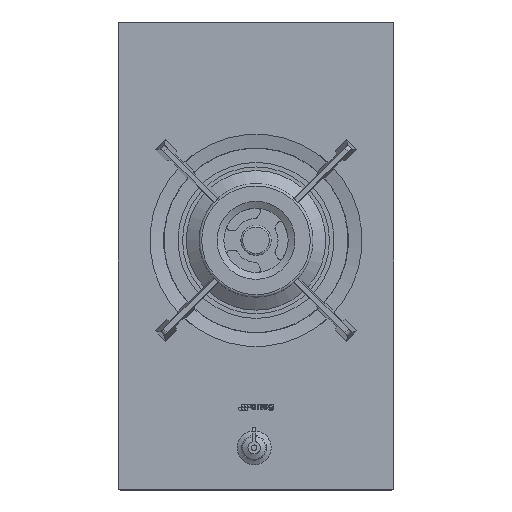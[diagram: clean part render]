
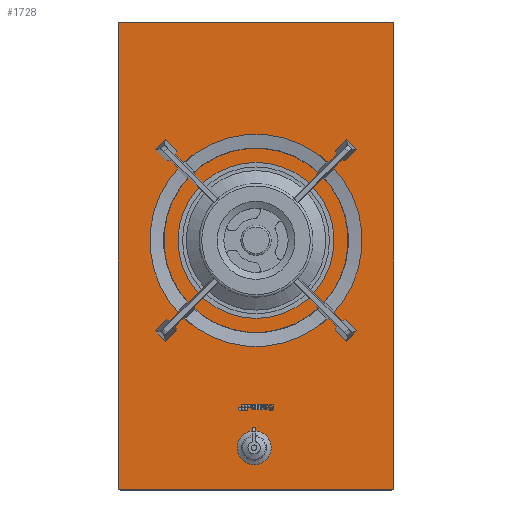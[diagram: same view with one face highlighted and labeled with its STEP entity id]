
A CAD part, top view. The second image highlights one B-rep face of the part: STEP entity #1728.
In plain terms, the highlighted planar face has unit normal (0, 0, 1).
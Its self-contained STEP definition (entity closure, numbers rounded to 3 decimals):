
#508=LINE('',#8120,#893);
#513=LINE('',#8134,#898);
#517=LINE('',#8146,#902);
#521=LINE('',#8158,#906);
#893=VECTOR('',#6407,1.);
#898=VECTOR('',#6420,1.);
#902=VECTOR('',#6432,1.);
#906=VECTOR('',#6444,1.);
#1243=PLANE('',#5173);
#1728=ADVANCED_FACE('',(#1962,#1963,#1964),#1243,.T.);
#1962=FACE_BOUND('',#2324,.T.);
#1963=FACE_BOUND('',#2325,.T.);
#1964=FACE_BOUND('',#2326,.T.);
#2324=EDGE_LOOP('',(#3512));
#2325=EDGE_LOOP('',(#3513));
#2326=EDGE_LOOP('',(#3514,#3515,#3516,#3517,#3518,#3519,#3520,#3521));
#3512=ORIENTED_EDGE('',*,*,#4566,.F.);
#3513=ORIENTED_EDGE('',*,*,#4567,.F.);
#3514=ORIENTED_EDGE('',*,*,#4544,.T.);
#3515=ORIENTED_EDGE('',*,*,#4548,.T.);
#3516=ORIENTED_EDGE('',*,*,#4551,.T.);
#3517=ORIENTED_EDGE('',*,*,#4554,.T.);
#3518=ORIENTED_EDGE('',*,*,#4557,.T.);
#3519=ORIENTED_EDGE('',*,*,#4560,.T.);
#3520=ORIENTED_EDGE('',*,*,#4563,.T.);
#3521=ORIENTED_EDGE('',*,*,#4565,.T.);
#3951=VERTEX_POINT('',#8119);
#3952=VERTEX_POINT('',#8121);
#3954=VERTEX_POINT('',#8127);
#3956=VERTEX_POINT('',#8133);
#3958=VERTEX_POINT('',#8139);
#3960=VERTEX_POINT('',#8145);
#3962=VERTEX_POINT('',#8151);
#3964=VERTEX_POINT('',#8157);
#3965=VERTEX_POINT('',#8164);
#3966=VERTEX_POINT('',#8166);
#4544=EDGE_CURVE('',#3952,#3951,#508,.T.);
#4548=EDGE_CURVE('',#3951,#3954,#4718,.T.);
#4551=EDGE_CURVE('',#3954,#3956,#513,.T.);
#4554=EDGE_CURVE('',#3956,#3958,#4720,.T.);
#4557=EDGE_CURVE('',#3958,#3960,#517,.T.);
#4560=EDGE_CURVE('',#3960,#3962,#4722,.T.);
#4563=EDGE_CURVE('',#3962,#3964,#521,.T.);
#4565=EDGE_CURVE('',#3964,#3952,#4724,.T.);
#4566=EDGE_CURVE('',#3965,#3965,#4725,.T.);
#4567=EDGE_CURVE('',#3966,#3966,#4726,.T.);
#4718=CIRCLE('',#5157,2.);
#4720=CIRCLE('',#5161,2.);
#4722=CIRCLE('',#5165,2.);
#4724=CIRCLE('',#5169,2.);
#4725=CIRCLE('',#5171,85.);
#4726=CIRCLE('',#5172,12.5);
#5157=AXIS2_PLACEMENT_3D('',#8128,#6414,#6415);
#5161=AXIS2_PLACEMENT_3D('',#8140,#6426,#6427);
#5165=AXIS2_PLACEMENT_3D('',#8152,#6438,#6439);
#5169=AXIS2_PLACEMENT_3D('',#8161,#6449,#6450);
#5171=AXIS2_PLACEMENT_3D('',#8163,#6453,#6454);
#5172=AXIS2_PLACEMENT_3D('',#8165,#6455,#6456);
#5173=AXIS2_PLACEMENT_3D('',#8167,#6457,#6458);
#6407=DIRECTION('',(0.,-1.,0.));
#6414=DIRECTION('',(0.,0.,1.));
#6415=DIRECTION('',(1.,0.,0.));
#6420=DIRECTION('',(1.,0.,0.));
#6426=DIRECTION('',(0.,0.,1.));
#6427=DIRECTION('',(1.,0.,0.));
#6432=DIRECTION('',(0.,1.,0.));
#6438=DIRECTION('',(0.,0.,1.));
#6439=DIRECTION('',(1.,0.,0.));
#6444=DIRECTION('',(-1.,0.,0.));
#6449=DIRECTION('',(0.,0.,1.));
#6450=DIRECTION('',(1.,0.,0.));
#6453=DIRECTION('',(0.,0.,1.));
#6454=DIRECTION('',(1.,0.,0.));
#6455=DIRECTION('',(0.,0.,1.));
#6456=DIRECTION('',(1.,0.,0.));
#6457=DIRECTION('',(0.,0.,1.));
#6458=DIRECTION('',(1.,0.,0.));
#8119=CARTESIAN_POINT('',(-150.,-14.,47.5));
#8120=CARTESIAN_POINT('',(-150.,492.,47.5));
#8121=CARTESIAN_POINT('',(-150.,492.,47.5));
#8127=CARTESIAN_POINT('',(-148.,-16.,47.5));
#8128=CARTESIAN_POINT('',(-148.,-14.,47.5));
#8133=CARTESIAN_POINT('',(148.,-16.,47.5));
#8134=CARTESIAN_POINT('',(-148.,-16.,47.5));
#8139=CARTESIAN_POINT('',(150.,-14.,47.5));
#8140=CARTESIAN_POINT('',(148.,-14.,47.5));
#8145=CARTESIAN_POINT('',(150.,492.,47.5));
#8146=CARTESIAN_POINT('',(150.,-14.,47.5));
#8151=CARTESIAN_POINT('',(148.,494.,47.5));
#8152=CARTESIAN_POINT('',(148.,492.,47.5));
#8157=CARTESIAN_POINT('',(-148.,494.,47.5));
#8158=CARTESIAN_POINT('',(148.,494.,47.5));
#8161=CARTESIAN_POINT('',(-148.,492.,47.5));
#8163=CARTESIAN_POINT('',(0.,256.,47.5));
#8164=CARTESIAN_POINT('',(85.,256.,47.5));
#8165=CARTESIAN_POINT('',(-2.,30.,47.5));
#8166=CARTESIAN_POINT('',(10.5,30.,47.5));
#8167=CARTESIAN_POINT('',(-148.,-14.,47.5));
